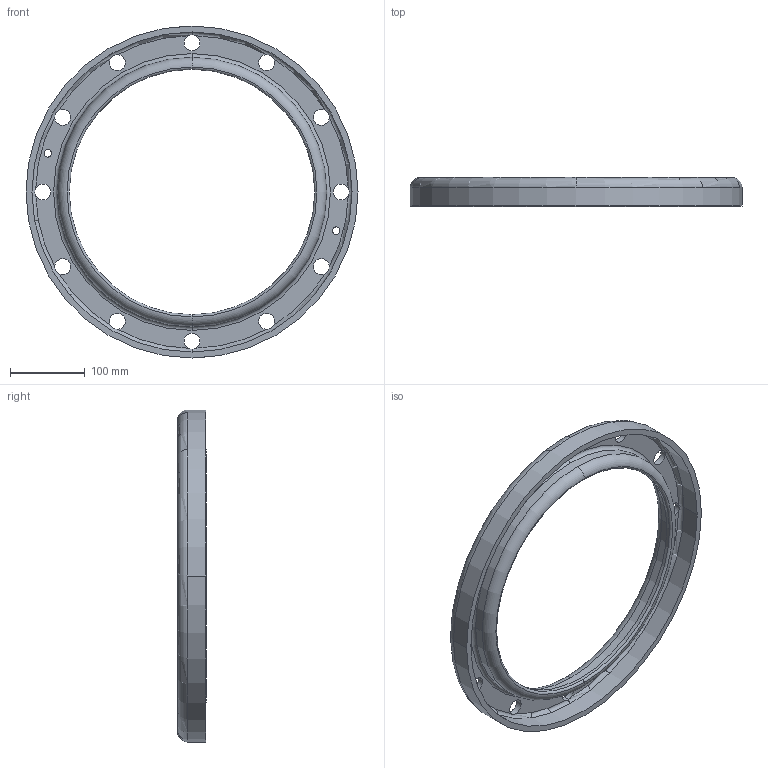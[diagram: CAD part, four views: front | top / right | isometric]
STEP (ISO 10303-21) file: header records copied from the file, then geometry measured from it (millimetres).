
FILE_DESCRIPTION(('STEP AP214'),'1');
FILE_NAME('Losflansch-DN300.stp','2023-07-13T07:26:31',(' '),(' '),'Spatial InterOp 3D',' ',' ');
FILE_SCHEMA(('automotive_design'));
Length unit declared in the file: millimetre
Products named in the file (2): 3D-Arbeitsebene
Assembly tree (1 placements, depth 2):
  3D-Arbeitsebene
    3D-Arbeitsebene
Bounding box: 445 x 38.5 x 445 mm (x, y, z)
Volume: 1014706.5 mm3; surface area: 279229.9 mm2
Topology: 1 solids, 1 shells, 56 faces, 226 edges, 150 vertices
Faces by surface type: cylinder 38, torus 14, plane 4
Entity records: 3209 total; most frequent: CARTESIAN_POINT 746, ORIENTED_EDGE 452, DIRECTION 434, EDGE_CURVE 226, AXIS2_PLACEMENT_3D 198, VERTEX_POINT 150, CIRCLE 140, EDGE_LOOP 64
